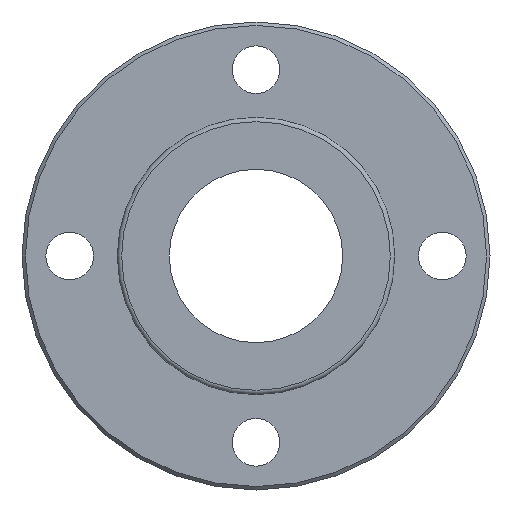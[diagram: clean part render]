
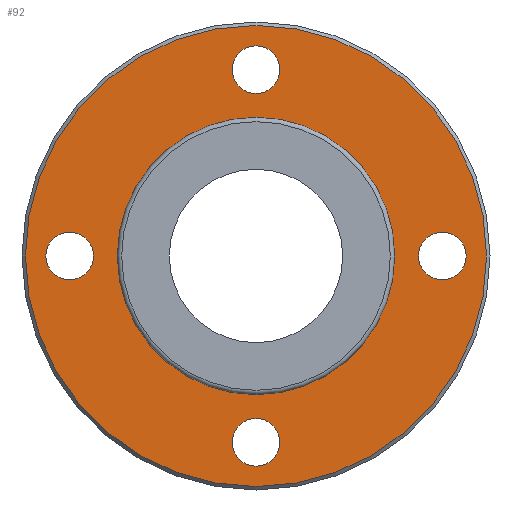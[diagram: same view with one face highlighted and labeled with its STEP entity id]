
A CAD part, left-side view. The second image highlights one B-rep face of the part: STEP entity #92.
In plain terms, the highlighted planar face has unit normal (-1, 0, 0).
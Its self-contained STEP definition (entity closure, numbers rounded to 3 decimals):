
#92=ADVANCED_FACE('',(#159,#160,#161,#162,#163,#164),#165,.T.);
#159=FACE_OUTER_BOUND('',#251,.T.);
#160=FACE_BOUND('',#252,.T.);
#161=FACE_BOUND('',#253,.T.);
#162=FACE_BOUND('',#254,.T.);
#163=FACE_BOUND('',#255,.T.);
#164=FACE_BOUND('',#256,.T.);
#165=PLANE('',#257);
#251=EDGE_LOOP('',(#377));
#252=EDGE_LOOP('',(#378));
#253=EDGE_LOOP('',(#379));
#254=EDGE_LOOP('',(#380));
#255=EDGE_LOOP('',(#381));
#256=EDGE_LOOP('',(#382));
#257=AXIS2_PLACEMENT_3D('',#383,#384,#385);
#377=ORIENTED_EDGE('',*,*,#465,.F.);
#378=ORIENTED_EDGE('',*,*,#456,.T.);
#379=ORIENTED_EDGE('',*,*,#454,.T.);
#380=ORIENTED_EDGE('',*,*,#449,.T.);
#381=ORIENTED_EDGE('',*,*,#466,.T.);
#382=ORIENTED_EDGE('',*,*,#451,.T.);
#383=CARTESIAN_POINT('',(-8.0,21.05,0.0));
#384=DIRECTION('',(-1.0,0.,0.));
#385=DIRECTION('',(0.,0.0,1.0));
#449=EDGE_CURVE('',#494,#494,#495,.T.);
#451=EDGE_CURVE('',#498,#498,#499,.T.);
#454=EDGE_CURVE('',#504,#504,#505,.T.);
#456=EDGE_CURVE('',#508,#508,#509,.T.);
#465=EDGE_CURVE('',#526,#526,#527,.T.);
#466=EDGE_CURVE('',#528,#528,#529,.T.);
#494=VERTEX_POINT('',#558);
#495=CIRCLE('',#559,2.75);
#498=VERTEX_POINT('',#562);
#499=CIRCLE('',#563,15.5);
#504=VERTEX_POINT('',#568);
#505=CIRCLE('',#569,2.75);
#508=VERTEX_POINT('',#572);
#509=CIRCLE('',#573,2.75);
#526=VERTEX_POINT('',#590);
#527=CIRCLE('',#591,26.6);
#528=VERTEX_POINT('',#592);
#529=CIRCLE('',#593,2.75);
#558=CARTESIAN_POINT('',(-8.0,0.0,-18.75));
#559=AXIS2_PLACEMENT_3D('',#635,#636,#637);
#562=CARTESIAN_POINT('',(-8.0,15.5,0.0));
#563=AXIS2_PLACEMENT_3D('',#641,#642,#643);
#568=CARTESIAN_POINT('',(-8.0,-21.5,2.75));
#569=AXIS2_PLACEMENT_3D('',#650,#651,#652);
#572=CARTESIAN_POINT('',(-8.0,0.0,24.25));
#573=AXIS2_PLACEMENT_3D('',#656,#657,#658);
#590=CARTESIAN_POINT('',(-8.0,26.6,0.0));
#591=AXIS2_PLACEMENT_3D('',#683,#684,#685);
#592=CARTESIAN_POINT('',(-8.0,21.5,2.75));
#593=AXIS2_PLACEMENT_3D('',#686,#687,#688);
#635=CARTESIAN_POINT('',(-8.0,0.0,-21.5));
#636=DIRECTION('',(1.0,0.,0.));
#637=DIRECTION('',(0.,0.0,-1.0));
#641=CARTESIAN_POINT('',(-8.0,0.0,0.0));
#642=DIRECTION('',(1.0,0.0,0.));
#643=DIRECTION('',(0.0,1.0,0.0));
#650=CARTESIAN_POINT('',(-8.0,-21.5,0.));
#651=DIRECTION('',(1.0,0.,0.));
#652=DIRECTION('',(0.,0.0,-1.0));
#656=CARTESIAN_POINT('',(-8.0,0.0,21.5));
#657=DIRECTION('',(1.0,0.,0.));
#658=DIRECTION('',(0.,0.0,-1.0));
#683=CARTESIAN_POINT('',(-8.0,0.0,0.0));
#684=DIRECTION('',(1.0,0.0,0.));
#685=DIRECTION('',(0.0,1.0,0.0));
#686=CARTESIAN_POINT('',(-8.0,21.5,0.));
#687=DIRECTION('',(1.0,0.,0.));
#688=DIRECTION('',(0.,0.0,-1.0));
